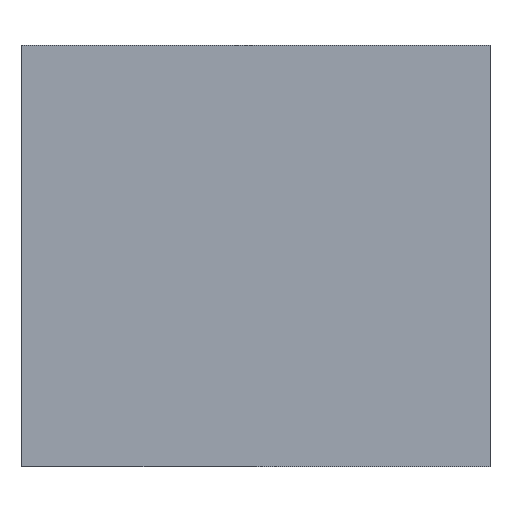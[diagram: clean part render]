
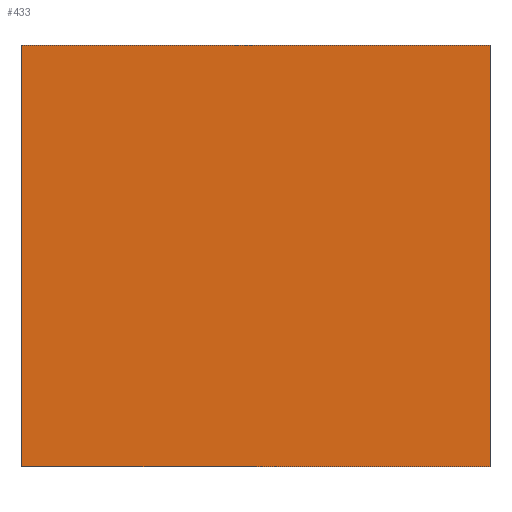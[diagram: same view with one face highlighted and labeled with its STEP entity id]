
A CAD part, front view. The second image highlights one B-rep face of the part: STEP entity #433.
In plain terms, the highlighted planar face has unit normal (0, -1, 0).
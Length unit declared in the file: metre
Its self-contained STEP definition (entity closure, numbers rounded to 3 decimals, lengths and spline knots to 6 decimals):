
#1 = DIRECTION ( 'NONE',  ( 0., 0., -1. ) ) ;
#10 = DIRECTION ( 'NONE',  ( 1., 0., 0. ) ) ;
#12 = CARTESIAN_POINT ( 'NONE',  ( 0.025, 0., 0. ) ) ;
#21 = CARTESIAN_POINT ( 'NONE',  ( -0.025, 0., 0. ) ) ;
#26 = DIRECTION ( 'NONE',  ( 0., 0., 1. ) ) ;
#62 = EDGE_CURVE ( 'NONE', #406, #202, #82, .T. ) ;
#82 = LINE ( 'NONE', #92, #149 ) ;
#92 = CARTESIAN_POINT ( 'NONE',  ( -0.025, 0., -0.002 ) ) ;
#107 = VECTOR ( 'NONE', #10, 1. ) ;
#112 = ORIENTED_EDGE ( 'NONE', *, *, #491, .T. ) ;
#139 = LINE ( 'NONE', #144, #230 ) ;
#144 = CARTESIAN_POINT ( 'NONE',  ( 0.025, 0., -0.002 ) ) ;
#149 = VECTOR ( 'NONE', #26, 1. ) ;
#195 = PLANE ( 'NONE',  #759 ) ;
#202 = VERTEX_POINT ( 'NONE', #379 ) ;
#207 = DIRECTION ( 'NONE',  ( 0., 0., 1. ) ) ;
#223 = CARTESIAN_POINT ( 'NONE',  ( -0.025, 0., -0.045 ) ) ;
#230 = VECTOR ( 'NONE', #207, 1. ) ;
#232 = ORIENTED_EDGE ( 'NONE', *, *, #620, .T. ) ;
#240 = VERTEX_POINT ( 'NONE', #12 ) ;
#259 = CARTESIAN_POINT ( 'NONE',  ( 0.025, 0., -0.045 ) ) ;
#287 = VECTOR ( 'NONE', #741, 1. ) ;
#379 = CARTESIAN_POINT ( 'NONE',  ( -0.025, 0., 0. ) ) ;
#406 = VERTEX_POINT ( 'NONE', #223 ) ;
#428 = CARTESIAN_POINT ( 'NONE',  ( -0.025, 0., -0.045 ) ) ;
#433 = ADVANCED_FACE ( 'NONE', ( #618 ), #195, .T. ) ;
#472 = ORIENTED_EDGE ( 'NONE', *, *, #62, .F. ) ;
#484 = EDGE_LOOP ( 'NONE', ( #520, #472, #112, #232 ) ) ;
#491 = EDGE_CURVE ( 'NONE', #406, #560, #606, .T. ) ;
#520 = ORIENTED_EDGE ( 'NONE', *, *, #604, .F. ) ;
#560 = VERTEX_POINT ( 'NONE', #259 ) ;
#580 = LINE ( 'NONE', #21, #287 ) ;
#604 = EDGE_CURVE ( 'NONE', #202, #240, #580, .T. ) ;
#606 = LINE ( 'NONE', #428, #107 ) ;
#618 = FACE_OUTER_BOUND ( 'NONE', #484, .T. ) ;
#620 = EDGE_CURVE ( 'NONE', #560, #240, #139, .T. ) ;
#671 = CARTESIAN_POINT ( 'NONE',  ( -0.025, 0., -0.002 ) ) ;
#730 = DIRECTION ( 'NONE',  ( 0., -1., 0. ) ) ;
#741 = DIRECTION ( 'NONE',  ( 1., 0., 0. ) ) ;
#759 = AXIS2_PLACEMENT_3D ( 'NONE', #671, #730, #1 ) ;
